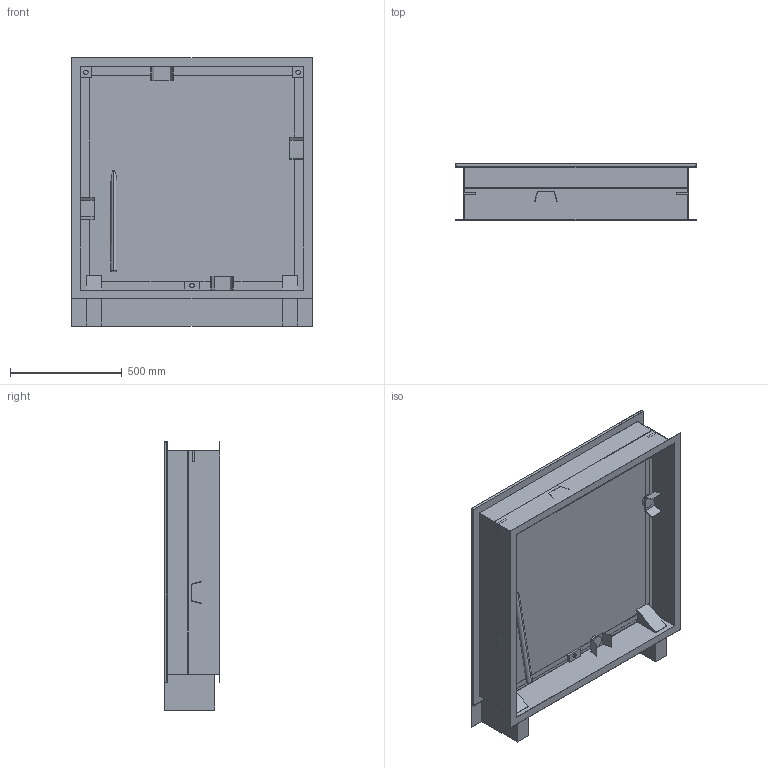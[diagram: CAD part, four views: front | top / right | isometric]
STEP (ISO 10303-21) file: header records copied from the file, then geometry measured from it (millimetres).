
FILE_DESCRIPTION((''),'2;1');
FILE_NAME('51679847','2022-02-22T12:54:35',('hrl'),('HUBER SE'),'CREO PARAMETRIC BY PTC INC, 2021184','CREO PARAMETRIC BY PTC INC, 2021184','');
FILE_SCHEMA(('AUTOMOTIVE_DESIGN { 1 0 10303 214 1 1 1 1 }'));
Length unit declared in the file: millimetre
Products named in the file (1): 51679847
Bounding box: 1078 x 250 x 1200 mm (x, y, z)
Volume: 110117927.2 mm3; surface area: 5950204.7 mm2
Topology: 1 solids, 1 shells, 176 faces, 482 edges, 316 vertices
Faces by surface type: plane 143, cylinder 33
Entity records: 6250 total; most frequent: CARTESIAN_POINT 1036, ORIENTED_EDGE 964, DIRECTION 918, EDGE_CURVE 482, VECTOR 394, LINE 394, VERTEX_POINT 316, AXIS2_PLACEMENT_3D 262
